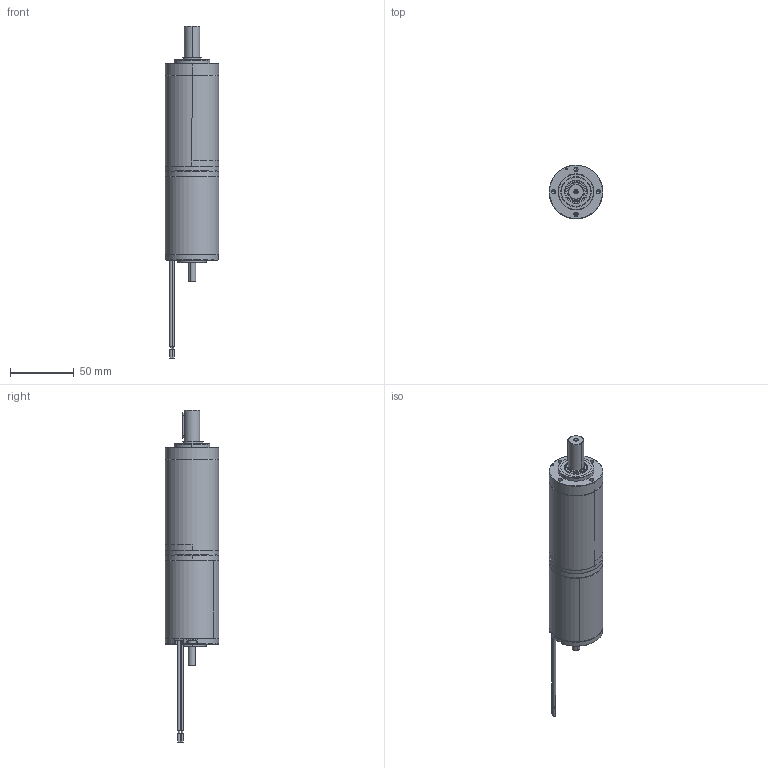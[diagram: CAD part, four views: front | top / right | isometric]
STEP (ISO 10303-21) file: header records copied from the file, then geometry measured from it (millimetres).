
FILE_DESCRIPTION (( 'STEP AP214' ), '1' );
FILE_NAME ('BRx42-25-PGx42 (4 Stage).STEP', '2025-05-12T11:12:51', ( '' ), ( '' ), 'SwSTEP 2.0', 'SolidWorks 2023', '' );
FILE_SCHEMA (( 'AUTOMOTIVE_DESIGN' ));
Length unit declared in the file: millimetre
Products named in the file (1): BRx42-25-PGx42 (4 Stage)
Bounding box: 42 x 42 x 259.85 mm (x, y, z)
Volume: 151334.9 mm3; surface area: 54348.1 mm2
Topology: 16 solids, 16 shells, 1557 faces, 3762 edges, 2354 vertices
Faces by surface type: plane 515, cylinder 316, cone 310, torus 214, bspline 186, sphere 16
Entity records: 72696 total; most frequent: CARTESIAN_POINT 19846, ORIENTED_EDGE 7500, DIRECTION 7292, EDGE_CURVE 3750, AXIS2_PLACEMENT_3D 2956, VERTEX_POINT 2354, EDGE_LOOP 1732, CIRCLE 1584
